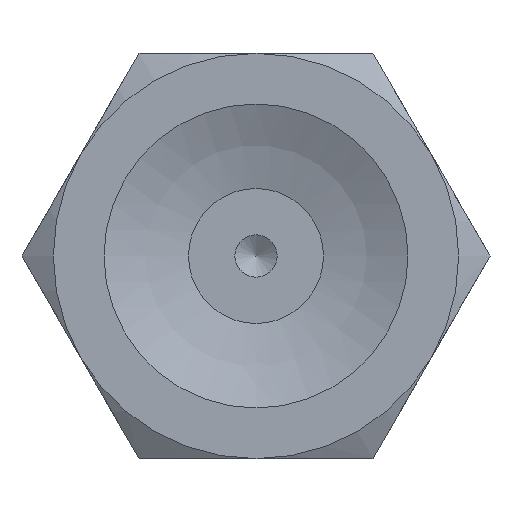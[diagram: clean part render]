
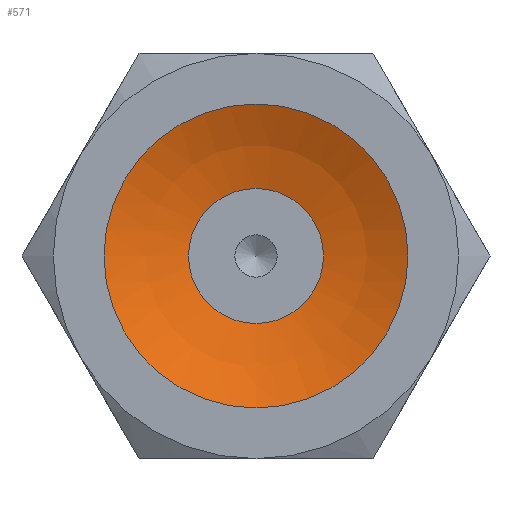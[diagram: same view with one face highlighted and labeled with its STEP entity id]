
A CAD part, front view. The second image highlights one B-rep face of the part: STEP entity #571.
In plain terms, the highlighted spherical face has radius 10.203 mm.
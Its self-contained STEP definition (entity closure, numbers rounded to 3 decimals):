
#571=ADVANCED_FACE('',(#863,#864),#865,.F.);
#863=FACE_OUTER_BOUND('',#1160,.T.);
#864=FACE_OUTER_BOUND('',#1161,.T.);
#865=SPHERICAL_SURFACE('',#1162,10.203);
#1160=EDGE_LOOP('',(#1898));
#1161=EDGE_LOOP('',(#1899));
#1162=AXIS2_PLACEMENT_3D('',#1900,#1901,#1902);
#1898=ORIENTED_EDGE('',*,*,#2090,.T.);
#1899=ORIENTED_EDGE('',*,*,#2103,.F.);
#1900=CARTESIAN_POINT('',(0.,-9.157,0.));
#1901=DIRECTION('',(0.0,-1.0,0.));
#1902=DIRECTION('',(1.0,0.0,0.0));
#2090=EDGE_CURVE('',#2401,#2401,#2402,.T.);
#2103=EDGE_CURVE('',#2427,#2427,#2428,.T.);
#2401=VERTEX_POINT('',#3295);
#2402=CIRCLE('',#3296,4.5);
#2427=VERTEX_POINT('',#3321);
#2428=CIRCLE('',#3322,2.);
#3295=CARTESIAN_POINT('',(0.0,0.,-4.5));
#3296=AXIS2_PLACEMENT_3D('',#3589,#3590,#3591);
#3321=CARTESIAN_POINT('',(0.0,0.848,-2.));
#3322=AXIS2_PLACEMENT_3D('',#3628,#3629,#3630);
#3589=CARTESIAN_POINT('',(0.0,0.,0.0));
#3590=DIRECTION('',(0.0,-1.0,0.));
#3591=DIRECTION('',(0.0,0.,-1.0));
#3628=CARTESIAN_POINT('',(0.0,0.848,0.0));
#3629=DIRECTION('',(0.0,-1.0,0.));
#3630=DIRECTION('',(0.0,0.,-1.0));
